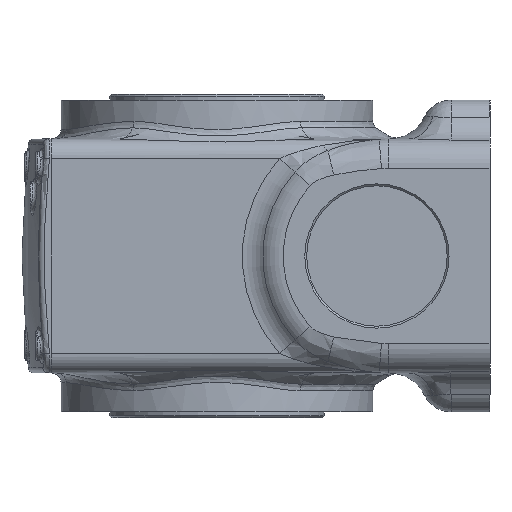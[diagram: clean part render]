
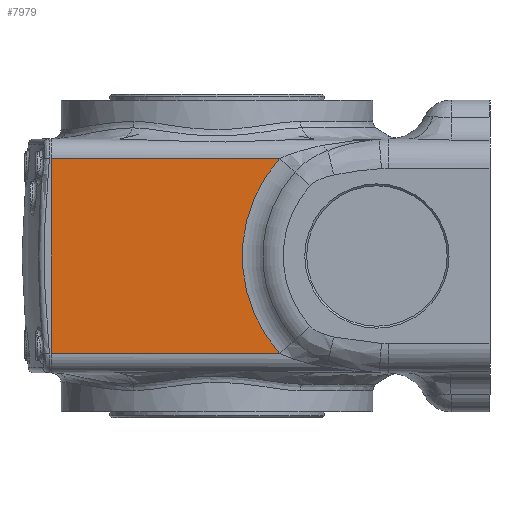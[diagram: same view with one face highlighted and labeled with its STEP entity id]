
A CAD part, left-side view. The second image highlights one B-rep face of the part: STEP entity #7979.
In plain terms, the highlighted planar face has unit normal (-1, 0, 0).
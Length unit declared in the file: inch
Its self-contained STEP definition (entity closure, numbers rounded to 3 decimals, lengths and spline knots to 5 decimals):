
#1425=FACE_OUTER_BOUND('',#2139,.T.);
#2139=EDGE_LOOP('',(#6695,#6696,#6697,#6698));
#2380=LINE('',#11508,#2580);
#2479=LINE('',#21004,#2679);
#2480=LINE('',#21007,#2680);
#2580=VECTOR('',#9397,3.93701);
#2679=VECTOR('',#10768,4.61017);
#2680=VECTOR('',#10773,4.61017);
#3125=CIRCLE('',#8844,2.95276);
#3324=VERTEX_POINT('',#11504);
#3326=VERTEX_POINT('',#11507);
#3819=VERTEX_POINT('',#20905);
#3820=VERTEX_POINT('',#20913);
#4068=EDGE_CURVE('',#3324,#3326,#2380,.T.);
#4804=EDGE_CURVE('',#3820,#3819,#3125,.T.);
#4809=EDGE_CURVE('',#3326,#3820,#2479,.T.);
#4810=EDGE_CURVE('',#3819,#3324,#2480,.T.);
#6695=ORIENTED_EDGE('',*,*,#4804,.F.);
#6696=ORIENTED_EDGE('',*,*,#4809,.F.);
#6697=ORIENTED_EDGE('',*,*,#4068,.F.);
#6698=ORIENTED_EDGE('',*,*,#4810,.F.);
#6983=PLANE('',#8850);
#7979=ADVANCED_FACE('',(#1425),#6983,.F.);
#8844=AXIS2_PLACEMENT_3D('',#20915,#10760,#10761);
#8850=AXIS2_PLACEMENT_3D('',#21008,#10774,#10775);
#9397=DIRECTION('',(0.,0.,1.));
#10760=DIRECTION('center_axis',(-1.,0.,0.));
#10761=DIRECTION('ref_axis',(0.,1.,0.));
#10768=DIRECTION('',(0.,-1.,0.));
#10773=DIRECTION('',(0.,1.,0.));
#10774=DIRECTION('center_axis',(1.,0.,0.));
#10775=DIRECTION('ref_axis',(0.,0.,1.));
#11504=CARTESIAN_POINT('',(-4.80633,4.61237,-1.9685));
#11507=CARTESIAN_POINT('',(-4.80633,4.61237,1.9685));
#11508=CARTESIAN_POINT('',(-4.80633,4.61237,-1.1811));
#20905=CARTESIAN_POINT('',(-4.80633,0.0022,-1.9685));
#20913=CARTESIAN_POINT('',(-4.80633,0.0022,1.9685));
#20915=CARTESIAN_POINT('Origin',(-4.80633,-2.19866,0.));
#21004=CARTESIAN_POINT('',(-4.80633,2.3978,1.9685));
#21007=CARTESIAN_POINT('',(-4.80633,2.3978,-1.9685));
#21008=CARTESIAN_POINT('Origin',(-4.80633,4.61237,-2.3622));
